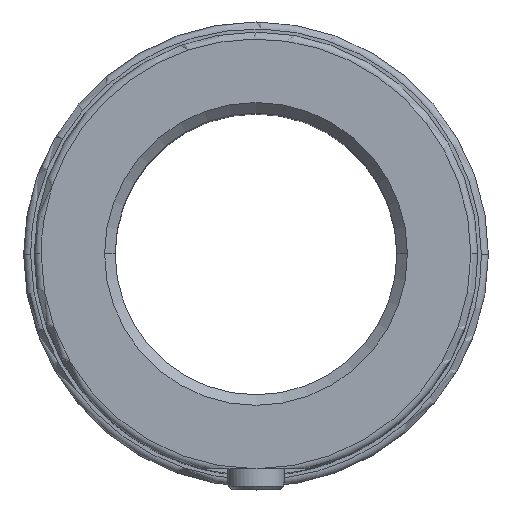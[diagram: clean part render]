
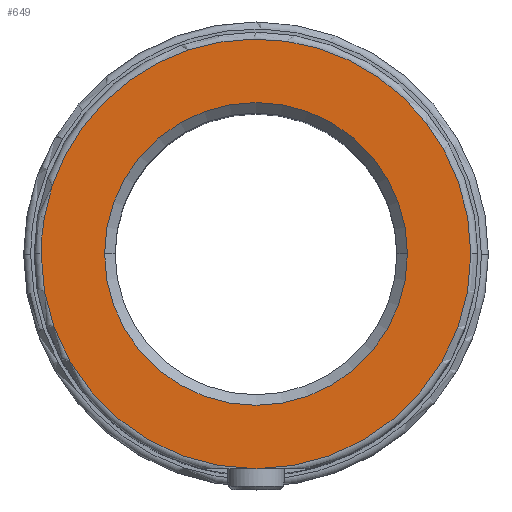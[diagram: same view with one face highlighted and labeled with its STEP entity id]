
A CAD part, top view. The second image highlights one B-rep face of the part: STEP entity #649.
In plain terms, the highlighted planar face has unit normal (0, 0, 1).
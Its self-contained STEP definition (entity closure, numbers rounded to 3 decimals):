
#297=CARTESIAN_POINT('Vertex',(0.,-30.5,45.)) ;
#413=CARTESIAN_POINT('Vertex',(-21.5,0.,45.)) ;
#416=CARTESIAN_POINT('Axis2P3D Location',(0.,0.,45.)) ;
#420=CARTESIAN_POINT('Vertex',(21.5,0.,45.)) ;
#508=CARTESIAN_POINT('Vertex',(30.5,0.,45.)) ;
#511=CARTESIAN_POINT('Axis2P3D Location',(0.,0.,45.)) ;
#532=CARTESIAN_POINT('Vertex',(-30.5,0.,45.)) ;
#535=CARTESIAN_POINT('Axis2P3D Location',(0.,0.,45.)) ;
#597=CARTESIAN_POINT('Axis2P3D Location',(0.,0.,45.)) ;
#609=CARTESIAN_POINT('Axis2P3D Location',(-21.5,0.,45.)) ;
#615=CARTESIAN_POINT('Control Point',(30.5,0.,45.)) ;
#616=CARTESIAN_POINT('Control Point',(30.5,2.976,45.)) ;
#617=CARTESIAN_POINT('Control Point',(30.137,5.952,45.)) ;
#618=CARTESIAN_POINT('Control Point',(29.411,8.869,45.)) ;
#619=CARTESIAN_POINT('Control Point',(27.262,14.467,45.)) ;
#620=CARTESIAN_POINT('Control Point',(23.831,19.385,45.)) ;
#621=CARTESIAN_POINT('Control Point',(21.822,21.621,45.)) ;
#622=CARTESIAN_POINT('Control Point',(17.3,25.559,45.)) ;
#623=CARTESIAN_POINT('Control Point',(11.963,28.294,45.)) ;
#624=CARTESIAN_POINT('Control Point',(9.141,29.328,45.)) ;
#625=CARTESIAN_POINT('Control Point',(3.3,30.686,45.)) ;
#626=CARTESIAN_POINT('Control Point',(-2.695,30.601,45.)) ;
#627=CARTESIAN_POINT('Control Point',(-5.673,30.191,45.)) ;
#628=CARTESIAN_POINT('Control Point',(-11.469,28.653,45.)) ;
#629=CARTESIAN_POINT('Control Point',(-16.725,25.767,45.)) ;
#630=CARTESIAN_POINT('Control Point',(-19.164,24.009,45.)) ;
#631=CARTESIAN_POINT('Control Point',(-23.562,19.933,45.)) ;
#632=CARTESIAN_POINT('Control Point',(-26.852,14.92,45.)) ;
#633=CARTESIAN_POINT('Control Point',(-28.182,12.224,45.)) ;
#634=CARTESIAN_POINT('Control Point',(-29.603,8.15,45.)) ;
#635=CARTESIAN_POINT('Control Point',(-30.29,3.916,45.)) ;
#636=CARTESIAN_POINT('Control Point',(-30.43,2.614,45.)) ;
#637=CARTESIAN_POINT('Control Point',(-30.5,1.307,45.)) ;
#638=CARTESIAN_POINT('Control Point',(-30.5,0.,45.)) ;
#417=DIRECTION('Axis2P3D Direction',(0.,-0.,1.)) ;
#512=DIRECTION('Axis2P3D Direction',(0.,-0.,1.)) ;
#536=DIRECTION('Axis2P3D Direction',(0.,-0.,1.)) ;
#598=DIRECTION('Axis2P3D Direction',(0.,-0.,1.)) ;
#610=DIRECTION('Axis2P3D Direction',(0.,0.,-1.)) ;
#611=DIRECTION('Axis2P3D XDirection',(-1.,0.,-0.)) ;
#418=AXIS2_PLACEMENT_3D('Circle Axis2P3D',#416,#417,$) ;
#513=AXIS2_PLACEMENT_3D('Circle Axis2P3D',#511,#512,$) ;
#537=AXIS2_PLACEMENT_3D('Circle Axis2P3D',#535,#536,$) ;
#599=AXIS2_PLACEMENT_3D('Circle Axis2P3D',#597,#598,$) ;
#612=AXIS2_PLACEMENT_3D('Plane Axis2P3D',#609,#610,#611) ;
#641=ORIENTED_EDGE('',*,*,#515,.T.) ;
#642=ORIENTED_EDGE('',*,*,#639,.T.) ;
#643=ORIENTED_EDGE('',*,*,#539,.T.) ;
#646=ORIENTED_EDGE('',*,*,#601,.F.) ;
#647=ORIENTED_EDGE('',*,*,#422,.F.) ;
#648=FACE_BOUND('',#645,.T.) ;
#649=ADVANCED_FACE('744-40 sol1',(#644,#648),#613,.F.) ;
#614=B_SPLINE_CURVE_WITH_KNOTS('',5,(#615,#616,#617,#618,#619,#620,#621,#622,#623,#624,#625,#626,#627,#628,#629,#630,#631,#632,#633,#634,#635,#636,#637,#638),.UNSPECIFIED.,.F.,.U.,(6,3,3,3,3,3,3,6),(0.,21.044,42.088,63.132,84.176,105.22,126.264,135.507),.UNSPECIFIED.) ;
#419=CIRCLE('generated circle',#418,21.5) ;
#514=CIRCLE('generated circle',#513,30.5) ;
#538=CIRCLE('generated circle',#537,30.5) ;
#600=CIRCLE('generated circle',#599,21.5) ;
#422=EDGE_CURVE('',#414,#421,#419,.T.) ;
#515=EDGE_CURVE('',#298,#509,#514,.T.) ;
#539=EDGE_CURVE('',#533,#298,#538,.T.) ;
#601=EDGE_CURVE('',#421,#414,#600,.T.) ;
#639=EDGE_CURVE('',#509,#533,#614,.T.) ;
#640=EDGE_LOOP('',(#641,#642,#643)) ;
#645=EDGE_LOOP('',(#646,#647)) ;
#644=FACE_OUTER_BOUND('',#640,.T.) ;
#613=PLANE('Plane',#612) ;
#298=VERTEX_POINT('',#297) ;
#414=VERTEX_POINT('',#413) ;
#421=VERTEX_POINT('',#420) ;
#509=VERTEX_POINT('',#508) ;
#533=VERTEX_POINT('',#532) ;
